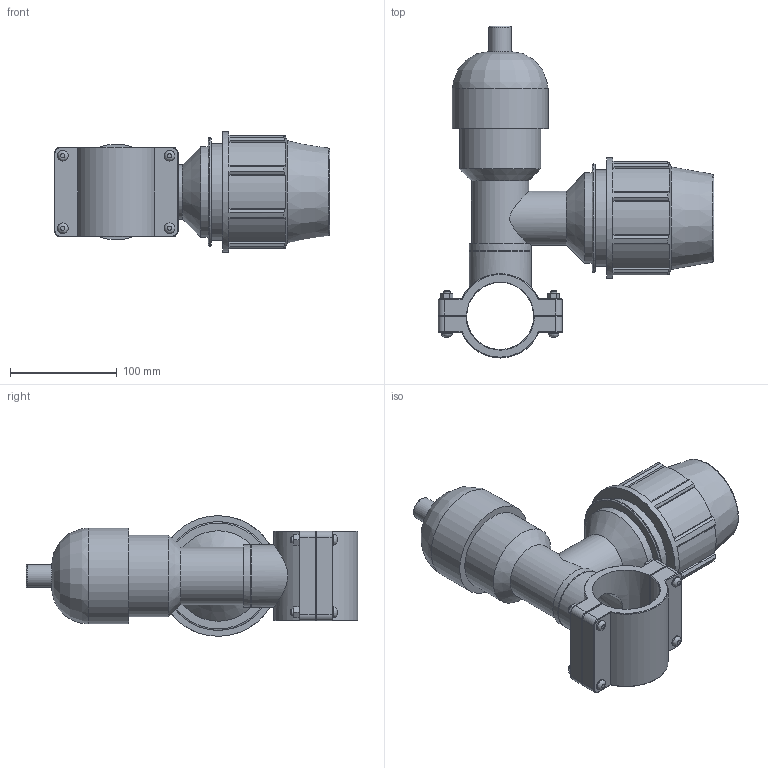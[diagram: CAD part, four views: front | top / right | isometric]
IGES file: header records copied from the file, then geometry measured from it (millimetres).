
Global section: file name: 186800063063.ipt; native system: Autodesk Inventor 2015; preprocessor: unknown; author: KIM; date: 20170618.094014; units: millimetre
Bounding box: 258 x 310.88 x 113 mm (x, y, z)
Volume: 1480894.7 mm3; surface area: 231624 mm2
Topology: 1 solids, 1 shells, 227 faces, 567 edges, 365 vertices
Faces by surface type: plane 136, cylinder 44, cone 29, revolution 18
Full cylindrical faces by diameter (mm): 6 x4, 10 x8, 21.119 x1, 44.845 x1, 50.85 x1, 53.814 x1, 58.298 x2, 76.237 x1, 84.75 x1, 89.69 x1, 90.4 x1, 101.7 x1, 113 x1
